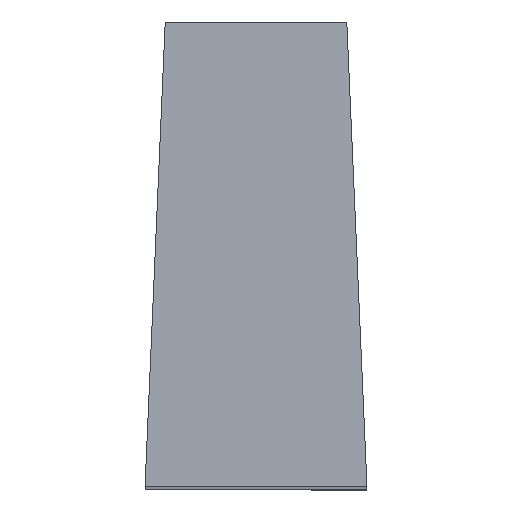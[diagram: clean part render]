
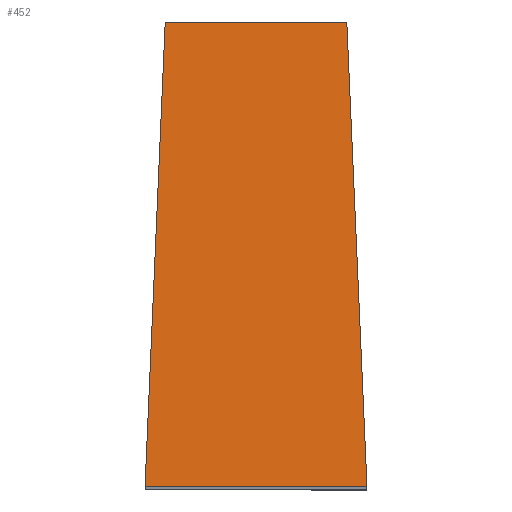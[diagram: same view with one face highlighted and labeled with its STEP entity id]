
A CAD part, top view. The second image highlights one B-rep face of the part: STEP entity #452.
In plain terms, the highlighted planar face has unit normal (0, 0.054, 0.999).
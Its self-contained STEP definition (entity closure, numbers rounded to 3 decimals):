
#6 = AXIS2_PLACEMENT_3D ( 'NONE', #367, #114, #109 ) ;
#17 = DIRECTION ( 'NONE',  ( 0.043, -0.998, 0.054 ) ) ;
#37 = DIRECTION ( 'NONE',  ( -0.043, -0.998, 0.054 ) ) ;
#50 = EDGE_CURVE ( 'NONE', #224, #270, #295, .T. ) ;
#55 = FACE_OUTER_BOUND ( 'NONE', #79, .T. ) ;
#68 = LINE ( 'NONE', #469, #256 ) ;
#79 = EDGE_LOOP ( 'NONE', ( #309, #401, #569, #140 ) ) ;
#109 = DIRECTION ( 'NONE',  ( 0., 0.999, -0.054 ) ) ;
#114 = DIRECTION ( 'NONE',  ( 0., -0.054, -0.999 ) ) ;
#133 = CARTESIAN_POINT ( 'NONE',  ( 11., 0., 56.25 ) ) ;
#134 = EDGE_CURVE ( 'NONE', #326, #224, #68, .T. ) ;
#140 = ORIENTED_EDGE ( 'NONE', *, *, #563, .F. ) ;
#192 = VERTEX_POINT ( 'NONE', #133 ) ;
#219 = PLANE ( 'NONE',  #6 ) ;
#224 = VERTEX_POINT ( 'NONE', #290 ) ;
#256 = VECTOR ( 'NONE', #416, 1000. ) ;
#270 = VERTEX_POINT ( 'NONE', #641 ) ;
#290 = CARTESIAN_POINT ( 'NONE',  ( 1., 23., 55. ) ) ;
#295 = LINE ( 'NONE', #504, #383 ) ;
#309 = ORIENTED_EDGE ( 'NONE', *, *, #134, .T. ) ;
#326 = VERTEX_POINT ( 'NONE', #460 ) ;
#367 = CARTESIAN_POINT ( 'NONE',  ( 11., 0., 56.25 ) ) ;
#383 = VECTOR ( 'NONE', #37, 1000. ) ;
#401 = ORIENTED_EDGE ( 'NONE', *, *, #50, .T. ) ;
#416 = DIRECTION ( 'NONE',  ( -1., 0., 0. ) ) ;
#441 = EDGE_CURVE ( 'NONE', #192, #270, #519, .T. ) ;
#452 = ADVANCED_FACE ( 'NONE', ( #55 ), #219, .F. ) ;
#460 = CARTESIAN_POINT ( 'NONE',  ( 10., 23., 55. ) ) ;
#469 = CARTESIAN_POINT ( 'NONE',  ( 11., 23., 55. ) ) ;
#489 = CARTESIAN_POINT ( 'NONE',  ( 10., 23., 55. ) ) ;
#504 = CARTESIAN_POINT ( 'NONE',  ( 1., 23., 55. ) ) ;
#519 = LINE ( 'NONE', #623, #586 ) ;
#540 = LINE ( 'NONE', #489, #627 ) ;
#563 = EDGE_CURVE ( 'NONE', #326, #192, #540, .T. ) ;
#569 = ORIENTED_EDGE ( 'NONE', *, *, #441, .F. ) ;
#586 = VECTOR ( 'NONE', #633, 1000. ) ;
#623 = CARTESIAN_POINT ( 'NONE',  ( 11., 0., 56.25 ) ) ;
#627 = VECTOR ( 'NONE', #17, 1000. ) ;
#633 = DIRECTION ( 'NONE',  ( -1., 0., 0. ) ) ;
#641 = CARTESIAN_POINT ( 'NONE',  ( 0., 0., 56.25 ) ) ;
